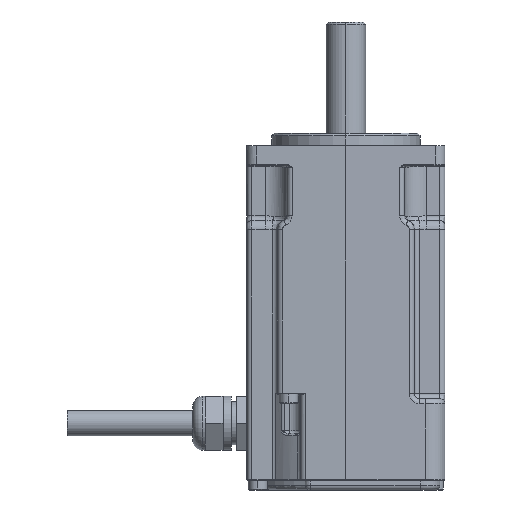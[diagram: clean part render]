
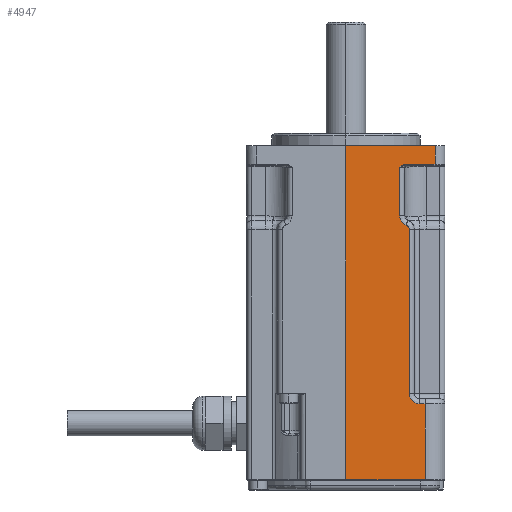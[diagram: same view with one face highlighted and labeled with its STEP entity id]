
A CAD part, left-side view. The second image highlights one B-rep face of the part: STEP entity #4947.
In plain terms, the highlighted planar face has unit normal (-1, -0.009, 0).
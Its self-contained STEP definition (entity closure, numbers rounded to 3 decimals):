
#2696 = ORIENTED_EDGE ( 'NONE', *, *, #20211, .T. ) ;
#2700 = ORIENTED_EDGE ( 'NONE', *, *, #3565, .T. ) ;
#3498 = EDGE_CURVE ( 'NONE', #3509, #3515, #11389, .T. ) ;
#3509 = VERTEX_POINT ( 'NONE', #11583 ) ;
#3515 = VERTEX_POINT ( 'NONE', #11798 ) ;
#3553 = ORIENTED_EDGE ( 'NONE', *, *, #3498, .F. ) ;
#3565 = EDGE_CURVE ( 'NONE', #20194, #3515, #11638, .T. ) ;
#4141 = ORIENTED_EDGE ( 'NONE', *, *, #4185, .T. ) ;
#4185 = EDGE_CURVE ( 'NONE', #3509, #5251, #12954, .T. ) ;
#4256 = ORIENTED_EDGE ( 'NONE', *, *, #20146, .T. ) ;
#4286 = ORIENTED_EDGE ( 'NONE', *, *, #4392, .T. ) ;
#4360 = ORIENTED_EDGE ( 'NONE', *, *, #4361, .T. ) ;
#4361 = EDGE_CURVE ( 'NONE', #4918, #4857, #12768, .T. ) ;
#4383 = ORIENTED_EDGE ( 'NONE', *, *, #4715, .T. ) ;
#4386 = EDGE_CURVE ( 'NONE', #4912, #4918, #13471, .T. ) ;
#4391 = VERTEX_POINT ( 'NONE', #13521 ) ;
#4392 = EDGE_CURVE ( 'NONE', #20125, #4912, #13534, .T. ) ;
#4694 = CARTESIAN_POINT ( 'NONE',  ( -19.888, -12.823, -50.955 ) ) ;
#4695 = CARTESIAN_POINT ( 'NONE',  ( -19.888, -12.823, -52.127 ) ) ;
#4696 = CARTESIAN_POINT ( 'NONE',  ( -19.881, -13.651, -52.955 ) ) ;
#4697 = CARTESIAN_POINT ( 'NONE',  ( -19.871, -14.823, -52.955 ) ) ;
#4699 =( BOUNDED_CURVE ( )  B_SPLINE_CURVE ( 3, ( #4697, #4696, #4695, #4694 ),
 .UNSPECIFIED., .F., .T. ) 
 B_SPLINE_CURVE_WITH_KNOTS ( ( 4, 4 ),
 ( 4.712, 6.283 ),
 .UNSPECIFIED. ) 
 CURVE ( )  GEOMETRIC_REPRESENTATION_ITEM ( )  RATIONAL_B_SPLINE_CURVE ( ( 1., 0.805, 0.805, 1. ) ) 
 REPRESENTATION_ITEM ( '' )  );
#4709 = CARTESIAN_POINT ( 'NONE',  ( -19.871, -14.823, -52.955 ) ) ;
#4715 = EDGE_CURVE ( 'NONE', #4857, #4391, #13531, .T. ) ;
#4818 = EDGE_CURVE ( 'NONE', #4865, #4862, #13807, .T. ) ;
#4851 = EDGE_LOOP ( 'NONE', ( #2696, #2700, #3553, #4141, #5256, #4256, #4286, #4920, #4360, #4383, #4977, #4863, #4860 ) ) ;
#4857 = VERTEX_POINT ( 'NONE', #18351 ) ;
#4860 = ORIENTED_EDGE ( 'NONE', *, *, #4861, .F. ) ;
#4861 = EDGE_CURVE ( 'NONE', #20215, #4862, #18312, .T. ) ;
#4862 = VERTEX_POINT ( 'NONE', #18426 ) ;
#4863 = ORIENTED_EDGE ( 'NONE', *, *, #4818, .T. ) ;
#4864 = EDGE_CURVE ( 'NONE', #4391, #4865, #18370, .T. ) ;
#4865 = VERTEX_POINT ( 'NONE', #18380 ) ;
#4912 = VERTEX_POINT ( 'NONE', #18641 ) ;
#4918 = VERTEX_POINT ( 'NONE', #18608 ) ;
#4920 = ORIENTED_EDGE ( 'NONE', *, *, #4386, .T. ) ;
#4947 = ADVANCED_FACE ( 'NONE', ( #19100 ), #19121, .T. ) ;
#4977 = ORIENTED_EDGE ( 'NONE', *, *, #4864, .T. ) ;
#5251 = VERTEX_POINT ( 'NONE', #4709 ) ;
#5256 = ORIENTED_EDGE ( 'NONE', *, *, #5257, .T. ) ;
#5257 = EDGE_CURVE ( 'NONE', #5251, #20216, #4699, .T. ) ;
#9547 = CARTESIAN_POINT ( 'NONE',  ( -20., 0., -68.3 ) ) ;
#9597 = CARTESIAN_POINT ( 'NONE',  ( -19.888, -12.823, -50.955 ) ) ;
#9598 = CARTESIAN_POINT ( 'NONE',  ( -20., 0., -0.8 ) ) ;
#9599 = DIRECTION ( 'NONE',  ( 0., 0., -1. ) ) ;
#9600 = VECTOR ( 'NONE', #9599, 1000. ) ;
#9601 = CARTESIAN_POINT ( 'NONE',  ( -20., 0., -4.8 ) ) ;
#9602 = LINE ( 'NONE', #9601, #9600 ) ;
#9743 = CARTESIAN_POINT ( 'NONE',  ( -19.888, -12.823, -17.799 ) ) ;
#9744 = LINE ( 'NONE', #9743, #9770 ) ;
#9745 = CARTESIAN_POINT ( 'NONE',  ( -19.888, -12.823, -17.799 ) ) ;
#9769 = DIRECTION ( 'NONE',  ( 0., 0., 1. ) ) ;
#9770 = VECTOR ( 'NONE', #9769, 1000. ) ;
#11232 = DIRECTION ( 'NONE',  ( 0., 0., -1. ) ) ;
#11233 = VECTOR ( 'NONE', #11232, 1000. ) ;
#11389 = LINE ( 'NONE', #11404, #11233 ) ;
#11404 = CARTESIAN_POINT ( 'NONE',  ( -19.86, -16.035, -51.955 ) ) ;
#11583 = CARTESIAN_POINT ( 'NONE',  ( -19.86, -16.035, -52.955 ) ) ;
#11635 = DIRECTION ( 'NONE',  ( 0.009, -1., 0. ) ) ;
#11636 = VECTOR ( 'NONE', #11635, 1000. ) ;
#11637 = CARTESIAN_POINT ( 'NONE',  ( -19.86, -16.035, -68.3 ) ) ;
#11638 = LINE ( 'NONE', #11637, #11636 ) ;
#11798 = CARTESIAN_POINT ( 'NONE',  ( -19.86, -16.035, -68.3 ) ) ;
#12765 = DIRECTION ( 'NONE',  ( 0., 0., 1. ) ) ;
#12766 = VECTOR ( 'NONE', #12765, 1000. ) ;
#12767 = CARTESIAN_POINT ( 'NONE',  ( -19.905, -10.874, -4.8 ) ) ;
#12768 = LINE ( 'NONE', #12767, #12766 ) ;
#12951 = DIRECTION ( 'NONE',  ( -0.009, 1., 0. ) ) ;
#12952 = VECTOR ( 'NONE', #12951, 1000. ) ;
#12953 = CARTESIAN_POINT ( 'NONE',  ( -19.888, -12.823, -52.955 ) ) ;
#12954 = LINE ( 'NONE', #12953, #12952 ) ;
#13471 =( BOUNDED_CURVE ( )  B_SPLINE_CURVE ( 3, ( #13543, #13542, #13550, #13549 ),
 .UNSPECIFIED., .F., .T. ) 
 B_SPLINE_CURVE_WITH_KNOTS ( ( 4, 4 ),
 ( 5.07, 6.283 ),
 .UNSPECIFIED. ) 
 CURVE ( )  GEOMETRIC_REPRESENTATION_ITEM ( )  RATIONAL_B_SPLINE_CURVE ( ( 1., 0.881, 0.881, 1. ) ) 
 REPRESENTATION_ITEM ( '' )  );
#13501 = CARTESIAN_POINT ( 'NONE',  ( -19.894, -12.173, -16.863 ) ) ;
#13502 = CARTESIAN_POINT ( 'NONE',  ( -19.89, -12.577, -17.014 ) ) ;
#13503 = CARTESIAN_POINT ( 'NONE',  ( -19.888, -12.823, -17.368 ) ) ;
#13504 = CARTESIAN_POINT ( 'NONE',  ( -19.888, -12.823, -17.799 ) ) ;
#13512 = CARTESIAN_POINT ( 'NONE',  ( -19.896, -11.869, -4.621 ) ) ;
#13513 = CARTESIAN_POINT ( 'NONE',  ( -19.898, -11.677, -4.623 ) ) ;
#13514 = CARTESIAN_POINT ( 'NONE',  ( -19.9, -11.495, -4.693 ) ) ;
#13515 = CARTESIAN_POINT ( 'NONE',  ( -19.903, -11.168, -4.885 ) ) ;
#13516 = CARTESIAN_POINT ( 'NONE',  ( -19.904, -11.02, -5.008 ) ) ;
#13517 = CARTESIAN_POINT ( 'NONE',  ( -19.905, -10.874, -5.13 ) ) ;
#13521 = CARTESIAN_POINT ( 'NONE',  ( -19.896, -11.869, -4.621 ) ) ;
#13531 = B_SPLINE_CURVE_WITH_KNOTS ( 'NONE', 3,
 ( #13517, #13516, #13515, #13514, #13513, #13512 ),
 .UNSPECIFIED., .F., .F.,
 ( 4, 2, 4 ),
 ( 0., 0.001, 0.001 ),
 .UNSPECIFIED. ) ;
#13534 =( BOUNDED_CURVE ( )  B_SPLINE_CURVE ( 3, ( #13504, #13503, #13502, #13501 ),
 .UNSPECIFIED., .F., .T. ) 
 B_SPLINE_CURVE_WITH_KNOTS ( ( 4, 4 ),
 ( 3.142, 4.354 ),
 .UNSPECIFIED. ) 
 CURVE ( )  GEOMETRIC_REPRESENTATION_ITEM ( )  RATIONAL_B_SPLINE_CURVE ( ( 1., 0.881, 0.881, 1. ) ) 
 REPRESENTATION_ITEM ( '' )  );
#13542 = CARTESIAN_POINT ( 'NONE',  ( -19.901, -11.365, -16.561 ) ) ;
#13543 = CARTESIAN_POINT ( 'NONE',  ( -19.894, -12.173, -16.863 ) ) ;
#13549 = CARTESIAN_POINT ( 'NONE',  ( -19.905, -10.874, -14.99 ) ) ;
#13550 = CARTESIAN_POINT ( 'NONE',  ( -19.905, -10.874, -15.852 ) ) ;
#13804 = DIRECTION ( 'NONE',  ( 0., 0., 1. ) ) ;
#13805 = VECTOR ( 'NONE', #13804, 1000. ) ;
#13806 = CARTESIAN_POINT ( 'NONE',  ( -19.843, -18.017, -4.8 ) ) ;
#13807 = LINE ( 'NONE', #13806, #13805 ) ;
#18312 = LINE ( 'NONE', #18352, #18455 ) ;
#18351 = CARTESIAN_POINT ( 'NONE',  ( -19.905, -10.874, -5.13 ) ) ;
#18352 = CARTESIAN_POINT ( 'NONE',  ( -20., 0., -0.8 ) ) ;
#18370 = LINE ( 'NONE', #18405, #18385 ) ;
#18380 = CARTESIAN_POINT ( 'NONE',  ( -19.843, -18.017, -4.567 ) ) ;
#18383 = DIRECTION ( 'NONE',  ( 0.009, -1., 0.009 ) ) ;
#18385 = VECTOR ( 'NONE', #18383, 1000. ) ;
#18405 = CARTESIAN_POINT ( 'NONE',  ( -19.843, -18.015, -4.567 ) ) ;
#18426 = CARTESIAN_POINT ( 'NONE',  ( -19.843, -18.017, -0.8 ) ) ;
#18454 = DIRECTION ( 'NONE',  ( 0.009, -1., 0. ) ) ;
#18455 = VECTOR ( 'NONE', #18454, 1000. ) ;
#18608 = CARTESIAN_POINT ( 'NONE',  ( -19.905, -10.874, -14.99 ) ) ;
#18641 = CARTESIAN_POINT ( 'NONE',  ( -19.894, -12.173, -16.863 ) ) ;
#19100 = FACE_OUTER_BOUND ( 'NONE', #4851, .T. ) ;
#19121 = PLANE ( 'NONE',  #19160 ) ;
#19159 = CARTESIAN_POINT ( 'NONE',  ( -20., 0., -4.8 ) ) ;
#19160 = AXIS2_PLACEMENT_3D ( 'NONE', #19159, #19163, #19162 ) ;
#19162 = DIRECTION ( 'NONE',  ( 0.009, -1., 0. ) ) ;
#19163 = DIRECTION ( 'NONE',  ( -1., -0.009, 0. ) ) ;
#20125 = VERTEX_POINT ( 'NONE', #9745 ) ;
#20146 = EDGE_CURVE ( 'NONE', #20216, #20125, #9744, .T. ) ;
#20194 = VERTEX_POINT ( 'NONE', #9547 ) ;
#20211 = EDGE_CURVE ( 'NONE', #20215, #20194, #9602, .T. ) ;
#20215 = VERTEX_POINT ( 'NONE', #9598 ) ;
#20216 = VERTEX_POINT ( 'NONE', #9597 ) ;
